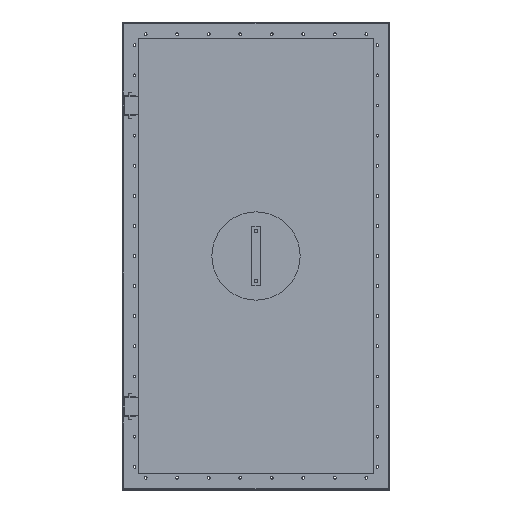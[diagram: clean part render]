
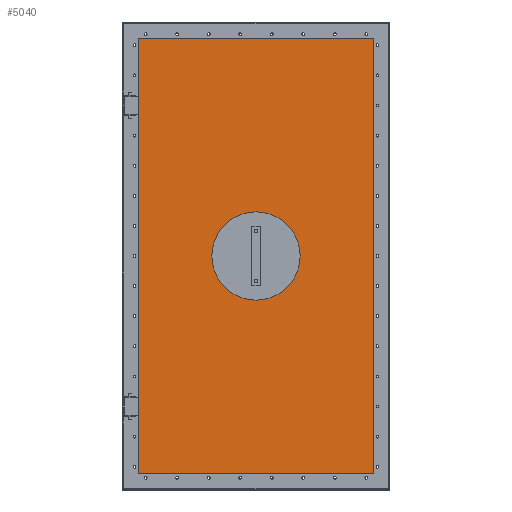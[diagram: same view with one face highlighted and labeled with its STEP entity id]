
A CAD part, top view. The second image highlights one B-rep face of the part: STEP entity #5040.
In plain terms, the highlighted planar face has unit normal (0, 0, 1).
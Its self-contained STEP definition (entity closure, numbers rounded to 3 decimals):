
#1728=DIRECTION('',(0.,-1.,0.));
#1729=VECTOR('',#1728,2172.);
#1730=CARTESIAN_POINT('',(-586.,1086.,-66.));
#1731=LINE('',#1730,#1729);
#1732=DIRECTION('',(-1.,0.,0.));
#1733=VECTOR('',#1732,1172.);
#1734=CARTESIAN_POINT('',(586.,1086.,-66.));
#1735=LINE('',#1734,#1733);
#1736=DIRECTION('',(0.,1.,0.));
#1737=VECTOR('',#1736,2172.);
#1738=CARTESIAN_POINT('',(586.,-1086.,-66.));
#1739=LINE('',#1738,#1737);
#1740=DIRECTION('',(1.,0.,0.));
#1741=VECTOR('',#1740,1172.);
#1742=CARTESIAN_POINT('',(-586.,-1086.,-66.));
#1743=LINE('',#1742,#1741);
#1744=CARTESIAN_POINT('',(0.,0.,-66.));
#1745=DIRECTION('',(0.,0.,1.));
#1746=DIRECTION('',(1.,0.,0.));
#1747=AXIS2_PLACEMENT_3D('',#1744,#1745,#1746);
#1749=CARTESIAN_POINT('',(0.,0.,-66.));
#1750=DIRECTION('',(0.,0.,1.));
#1751=DIRECTION('',(-1.,0.,0.));
#1752=AXIS2_PLACEMENT_3D('',#1749,#1750,#1751);
#2888=CARTESIAN_POINT('',(-586.,1086.,-66.));
#2889=CARTESIAN_POINT('',(-586.,-1086.,-66.));
#2890=VERTEX_POINT('',#2888);
#2891=VERTEX_POINT('',#2889);
#2892=CARTESIAN_POINT('',(586.,-1086.,-66.));
#2893=VERTEX_POINT('',#2892);
#2894=CARTESIAN_POINT('',(586.,1086.,-66.));
#2895=VERTEX_POINT('',#2894);
#3648=CARTESIAN_POINT('',(220.,0.,-66.));
#3649=CARTESIAN_POINT('',(-220.,0.,-66.));
#3650=VERTEX_POINT('',#3648);
#3651=VERTEX_POINT('',#3649);
#5023=CARTESIAN_POINT('',(0.,0.,-66.));
#5024=DIRECTION('',(0.,0.,1.));
#5025=DIRECTION('',(1.,0.,0.));
#5026=AXIS2_PLACEMENT_3D('',#5023,#5024,#5025);
#5027=PLANE('',#5026);
#5028=ORIENTED_EDGE('',*,*,#4927,.F.);
#5029=ORIENTED_EDGE('',*,*,#4969,.F.);
#5030=ORIENTED_EDGE('',*,*,#4990,.F.);
#5031=ORIENTED_EDGE('',*,*,#5010,.F.);
#5032=EDGE_LOOP('',(#5028,#5029,#5030,#5031));
#5033=FACE_OUTER_BOUND('',#5032,.F.);
#5035=ORIENTED_EDGE('',*,*,#5034,.T.);
#5037=ORIENTED_EDGE('',*,*,#5036,.T.);
#5038=EDGE_LOOP('',(#5035,#5037));
#5039=FACE_BOUND('',#5038,.F.);
#1748=CIRCLE('',#1747,220.);
#1753=CIRCLE('',#1752,220.);
#4927=EDGE_CURVE('',#2890,#2891,#1731,.T.);
#4969=EDGE_CURVE('',#2895,#2890,#1735,.T.);
#4990=EDGE_CURVE('',#2893,#2895,#1739,.T.);
#5010=EDGE_CURVE('',#2891,#2893,#1743,.T.);
#5034=EDGE_CURVE('',#3650,#3651,#1748,.T.);
#5036=EDGE_CURVE('',#3651,#3650,#1753,.T.);
#5040=ADVANCED_FACE('',(#5033,#5039),#5027,.T.);
